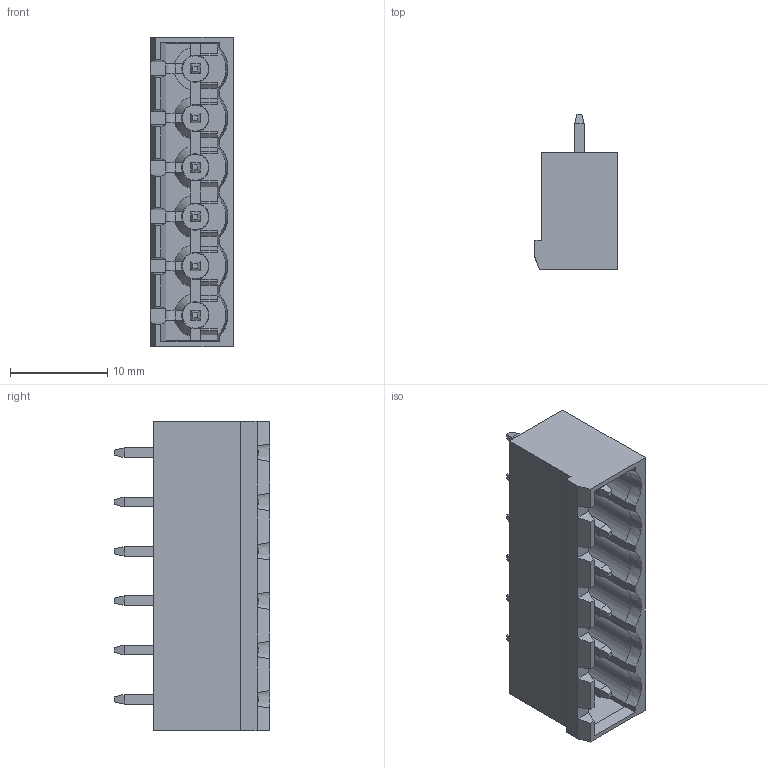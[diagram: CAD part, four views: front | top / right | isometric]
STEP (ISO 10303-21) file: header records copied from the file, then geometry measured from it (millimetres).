
FILE_DESCRIPTION(('STEP AP203'), '1');
FILE_NAME('WJ2EDGVC-5.08-06P', '2022-06-29T14:24:50', (''), (''), 'C3D Converter', 'C3D Toolkit', '');
FILE_SCHEMA(('CONFIG_CONTROL_DESIGN'));
Length unit declared in the file: millimetre
Products named in the file (1): KLR2GVC-5.08-06P
Bounding box: 8.5 x 16 x 31.88 mm (x, y, z)
Volume: 1277.9 mm3; surface area: 2891.6 mm2
Topology: 1 solids, 1 shells, 504 faces, 1304 edges, 808 vertices
Faces by surface type: plane 449, cylinder 27, cone 22, sphere 6
Entity records: 19709 total; most frequent: CARTESIAN_POINT 3550, ORIENTED_EDGE 2572, DIRECTION 2347, EDGE_CURVE 1286, LINE 1139, VECTOR 1139, VERTEX_POINT 802, AXIS2_PLACEMENT_3D 604
